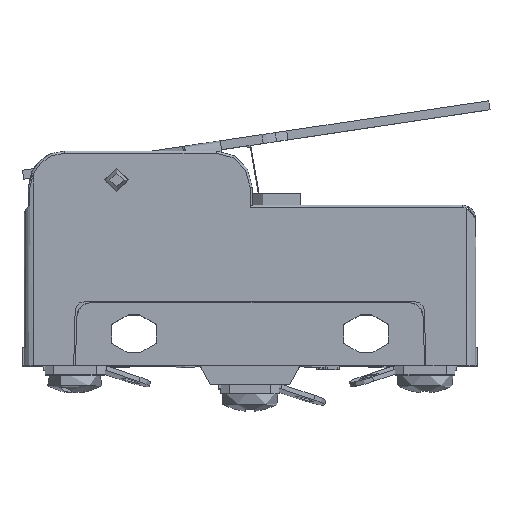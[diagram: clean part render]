
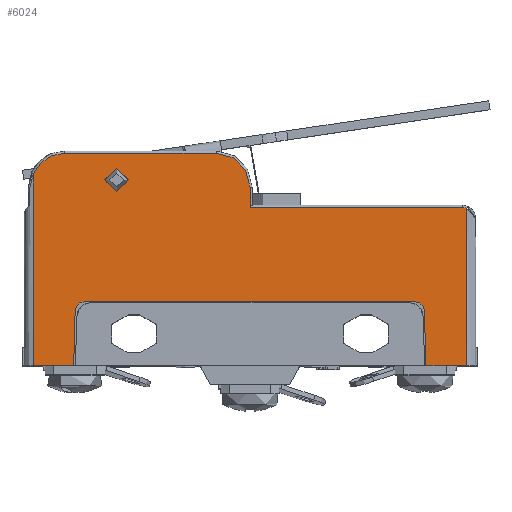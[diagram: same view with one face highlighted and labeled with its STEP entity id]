
A CAD part, top view. The second image highlights one B-rep face of the part: STEP entity #6024.
In plain terms, the highlighted planar face has unit normal (0, 0, 1).
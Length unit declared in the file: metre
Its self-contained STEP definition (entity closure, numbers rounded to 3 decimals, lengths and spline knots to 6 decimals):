
#5246=CARTESIAN_POINT('',(-0.011767,0.013867,0.05815));
#5247=DIRECTION('',(0.,0.,1.));
#5248=DIRECTION('',(1.,0.,0.));
#5249=AXIS2_PLACEMENT_3D('',#5246,#5247,#5248);
#5250=CIRCLE('',#5249,0.0013);
#5251=CARTESIAN_POINT('',(-0.013067,0.013867,0.05815));
#5252=VERTEX_POINT('',#5251);
#5253=EDGE_CURVE('',#5252,#5252,#5250,.T.);
#5280=CARTESIAN_POINT('',(0.022323,-0.000607,0.05815));
#5281=VERTEX_POINT('',#5280);
#5284=CARTESIAN_POINT('',(0.021323,-0.000633,0.05815));
#5285=DIRECTION('',(0.,0.,1.));
#5286=DIRECTION('',(1.,0.,0.));
#5287=AXIS2_PLACEMENT_3D('',#5284,#5285,#5286);
#5288=CIRCLE('',#5287,0.001);
#5289=CARTESIAN_POINT('',(0.021323,0.000367,0.05815));
#5290=VERTEX_POINT('',#5289);
#5291=EDGE_CURVE('',#5281,#5290,#5288,.T.);
#5325=CARTESIAN_POINT('',(-0.015357,0.000367,0.05815));
#5326=DIRECTION('',(-1.,0.,0.));
#5327=VECTOR('',#5326,1.);
#5328=LINE('',#5325,#5327);
#5329=CARTESIAN_POINT('',(-0.015357,0.000367,0.05815));
#5330=VERTEX_POINT('',#5329);
#5331=EDGE_CURVE('',#5290,#5330,#5328,.T.);
#5364=CARTESIAN_POINT('',(-0.015357,-0.000633,0.05815));
#5365=DIRECTION('',(0.,0.,1.));
#5366=DIRECTION('',(1.,0.,0.));
#5367=AXIS2_PLACEMENT_3D('',#5364,#5365,#5366);
#5368=CIRCLE('',#5367,0.001);
#5369=CARTESIAN_POINT('',(-0.016356,-0.000607,0.05815));
#5370=VERTEX_POINT('',#5369);
#5371=EDGE_CURVE('',#5330,#5370,#5368,.T.);
#5405=CARTESIAN_POINT('',(-0.016517,-0.006733,0.05815));
#5406=DIRECTION('',(-0.026,-1.,0.));
#5407=VECTOR('',#5406,1.);
#5408=LINE('',#5405,#5407);
#5409=CARTESIAN_POINT('',(-0.016517,-0.006733,0.05815));
#5410=VERTEX_POINT('',#5409);
#5411=EDGE_CURVE('',#5370,#5410,#5408,.T.);
#5687=CARTESIAN_POINT('',(-0.020992,-0.006733,0.05815));
#5688=VERTEX_POINT('',#5687);
#5691=CARTESIAN_POINT('',(-0.020992,0.011067,0.05815));
#5692=DIRECTION('',(0.,-1.,0.));
#5693=VECTOR('',#5692,1.);
#5694=LINE('',#5691,#5693);
#5695=CARTESIAN_POINT('',(-0.020992,0.014524,0.05815));
#5696=VERTEX_POINT('',#5695);
#5697=EDGE_CURVE('',#5696,#5688,#5694,.T.);
#5769=CARTESIAN_POINT('',(-0.017537,0.016817,0.05815));
#5770=VERTEX_POINT('',#5769);
#5791=CARTESIAN_POINT('',(-0.017537,0.013067,0.05815));
#5792=DIRECTION('',(0.,0.,-1.));
#5793=DIRECTION('',(-1.,0.,0.));
#5794=AXIS2_PLACEMENT_3D('',#5791,#5792,#5793);
#5795=CIRCLE('',#5794,0.00375);
#5796=EDGE_CURVE('',#5696,#5770,#5795,.T.);
#5819=CARTESIAN_POINT('',(0.026508,0.010817,0.05815));
#5820=VERTEX_POINT('',#5819);
#5838=CARTESIAN_POINT('',(0.003009,0.010817,0.05815));
#5839=VERTEX_POINT('',#5838);
#5842=CARTESIAN_POINT('',(0.003259,0.010817,0.05815));
#5843=DIRECTION('',(1.,0.,0.));
#5844=VECTOR('',#5843,1.);
#5845=LINE('',#5842,#5844);
#5846=EDGE_CURVE('',#5839,#5820,#5845,.T.);
#5878=CARTESIAN_POINT('',(0.003009,0.013067,0.05815));
#5879=VERTEX_POINT('',#5878);
#5882=CARTESIAN_POINT('',(0.003009,0.013067,0.05815));
#5883=DIRECTION('',(0.,1.,0.));
#5884=VECTOR('',#5883,1.);
#5885=LINE('',#5882,#5884);
#5886=EDGE_CURVE('',#5839,#5879,#5885,.T.);
#5919=CARTESIAN_POINT('',(-0.000741,0.016817,0.05815));
#5920=VERTEX_POINT('',#5919);
#5923=CARTESIAN_POINT('',(-0.000741,0.013067,0.05815));
#5924=DIRECTION('',(0.,0.,-1.));
#5925=DIRECTION('',(-1.,0.,0.));
#5926=AXIS2_PLACEMENT_3D('',#5923,#5924,#5925);
#5927=CIRCLE('',#5926,0.00375);
#5928=EDGE_CURVE('',#5920,#5879,#5927,.T.);
#5954=CARTESIAN_POINT('',(-0.017537,0.016817,0.05815));
#5955=DIRECTION('',(-1.,0.,0.));
#5956=VECTOR('',#5955,1.);
#5957=LINE('',#5954,#5956);
#5958=EDGE_CURVE('',#5920,#5770,#5957,.T.);
#5971=CARTESIAN_POINT('',(-0.021992,0.011067,0.05815));
#5972=DIRECTION('',(0.,0.,-1.));
#5973=DIRECTION('',(-1.,0.,0.));
#5974=AXIS2_PLACEMENT_3D('',#5971,#5972,#5973);
#5975=PLANE('',#5974);
#5976=ORIENTED_EDGE('',*,*,#5958,.T.);
#5977=ORIENTED_EDGE('',*,*,#5796,.F.);
#5978=ORIENTED_EDGE('',*,*,#5697,.T.);
#5979=CARTESIAN_POINT('',(-0.021992,-0.006733,0.05815));
#5980=DIRECTION('',(1.,0.,0.));
#5981=VECTOR('',#5980,1.);
#5982=LINE('',#5979,#5981);
#5983=EDGE_CURVE('',#5688,#5410,#5982,.T.);
#5984=ORIENTED_EDGE('',*,*,#5983,.T.);
#5985=ORIENTED_EDGE('',*,*,#5411,.F.);
#5986=ORIENTED_EDGE('',*,*,#5371,.F.);
#5987=ORIENTED_EDGE('',*,*,#5331,.F.);
#5988=ORIENTED_EDGE('',*,*,#5291,.F.);
#5989=CARTESIAN_POINT('',(0.022483,-0.006733,0.05815));
#5990=DIRECTION('',(-0.026,1.,0.));
#5991=VECTOR('',#5990,1.);
#5992=LINE('',#5989,#5991);
#5993=CARTESIAN_POINT('',(0.022483,-0.006733,0.05815));
#5994=VERTEX_POINT('',#5993);
#5995=EDGE_CURVE('',#5994,#5281,#5992,.T.);
#5996=ORIENTED_EDGE('',*,*,#5995,.F.);
#5997=CARTESIAN_POINT('',(0.027008,-0.006733,0.05815));
#5998=VERTEX_POINT('',#5997);
#5999=EDGE_CURVE('',#5994,#5998,#5982,.T.);
#6000=ORIENTED_EDGE('',*,*,#5999,.T.);
#6001=CARTESIAN_POINT('',(0.027008,0.011067,0.05815));
#6002=DIRECTION('',(0.,-1.,0.));
#6003=VECTOR('',#6002,1.);
#6004=LINE('',#6001,#6003);
#6005=CARTESIAN_POINT('',(0.027008,0.010713,0.05815));
#6006=VERTEX_POINT('',#6005);
#6007=EDGE_CURVE('',#6006,#5998,#6004,.T.);
#6008=ORIENTED_EDGE('',*,*,#6007,.F.);
#6009=CARTESIAN_POINT('',(0.026508,0.009567,0.05815));
#6010=DIRECTION('',(0.,0.,-1.));
#6011=DIRECTION('',(-1.,0.,0.));
#6012=AXIS2_PLACEMENT_3D('',#6009,#6010,#6011);
#6013=CIRCLE('',#6012,0.00125);
#6014=EDGE_CURVE('',#5820,#6006,#6013,.T.);
#6015=ORIENTED_EDGE('',*,*,#6014,.F.);
#6016=ORIENTED_EDGE('',*,*,#5846,.F.);
#6017=ORIENTED_EDGE('',*,*,#5886,.T.);
#6018=ORIENTED_EDGE('',*,*,#5928,.F.);
#6019=EDGE_LOOP('',(#5976,#5977,#5978,#5984,#5985,#5986,#5987,#5988,#5996,#6000,#6008,#6015,#6016,#6017,#6018));
#6020=FACE_BOUND('',#6019,.T.);
#6021=ORIENTED_EDGE('',*,*,#5253,.F.);
#6022=EDGE_LOOP('',(#6021));
#6023=FACE_BOUND('',#6022,.T.);
#6024=ADVANCED_FACE('',(#6020,#6023),#5975,.F.);
